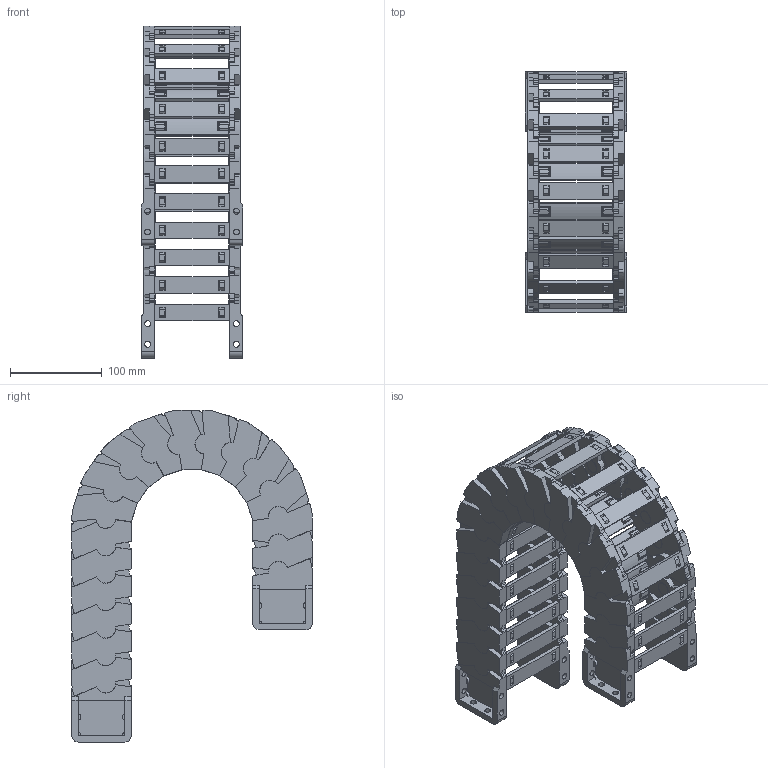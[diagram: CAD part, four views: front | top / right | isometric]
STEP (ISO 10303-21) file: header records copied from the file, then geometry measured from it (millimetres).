
FILE_DESCRIPTION((''),'2;1');
FILE_NAME('JY-52X80-R100_ASM','2025-09-12T14:25:44',('admin'),(''),'CREO PARAMETRIC BY PTC INC, 2021023','CREO PARAMETRIC BY PTC INC, 2021023','');
FILE_SCHEMA(('CONFIG_CONTROL_DESIGN'));
Length unit declared in the file: millimetre
Products named in the file (11): 52XL-L; 42-52XL-YP; 52XL-R; ASM0001_ASM; 52-LTT-A-L; 52-LTT-A-R; 52XL-LTT-A_ASM; 52-LTT-B-L; 52-LTT-B-R; 52XL-LTT-B_ASM; JY-52X80-R100_ASM
Assembly tree (31 placements, depth 3):
  JY-52X80-R100_ASM
    ASM0001_ASM  x17
      52XL-L
      42-52XL-YP
      52XL-R
    52XL-LTT-A_ASM
      52-LTT-A-L
      42-52XL-YP  x2
      52-LTT-A-R
    52XL-LTT-B_ASM
      52-LTT-B-L
      42-52XL-YP  x2
      52-LTT-B-R
Bounding box: 111 x 262.77 x 362.55 mm (x, y, z)
Volume: 1097542.8 mm3; surface area: 547111.4 mm2
Topology: 76 solids, 76 shells, 3900 faces, 11806 edges, 8056 vertices
Faces by surface type: plane 2770, cylinder 842, cone 288
Entity records: 18466 total; most frequent: CARTESIAN_POINT 3392, DIRECTION 3130, ORIENTED_EDGE 3124, EDGE_CURVE 1562, VECTOR 1074, LINE 1074, VERTEX_POINT 1056, AXIS2_PLACEMENT_3D 1028
